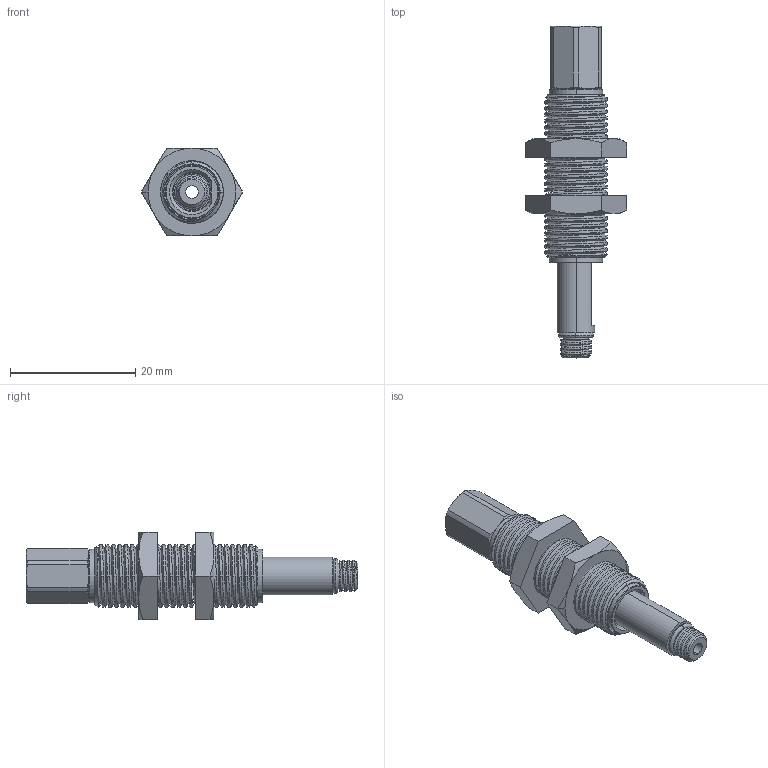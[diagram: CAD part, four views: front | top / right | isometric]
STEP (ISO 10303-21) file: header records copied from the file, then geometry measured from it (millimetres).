
FILE_DESCRIPTION (( 'STEP AP203' ), '1' );
FILE_NAME ('bln04-sbt10m10nk55a-m5b_asm〞〞TOC.STEP', '2024-10-17T03:03:17', ( '' ), ( '' ), 'SwSTEP 2.0', 'SolidWorks 2022', '' );
FILE_SCHEMA (( 'CONFIG_CONTROL_DESIGN' ));
Length unit declared in the file: millimetre
Products named in the file (1): bln04-sbt10m10nk55a-m5b_asm——TOC
Bounding box: 16.17 x 53 x 14 mm (x, y, z)
Surface area: 3434.1 mm2 (no closed solid volume)
Topology: 0 solids, 9 shells, 199 faces, 564 edges, 373 vertices
Faces by surface type: cylinder 78, cone 60, plane 34, bspline 23, torus 4
Entity records: 14385 total; most frequent: CARTESIAN_POINT 9731, ORIENTED_EDGE 1007, DIRECTION 775, EDGE_CURVE 564, VERTEX_POINT 373, AXIS2_PLACEMENT_3D 313, B_SPLINE_CURVE_WITH_KNOTS 279, EDGE_LOOP 211
